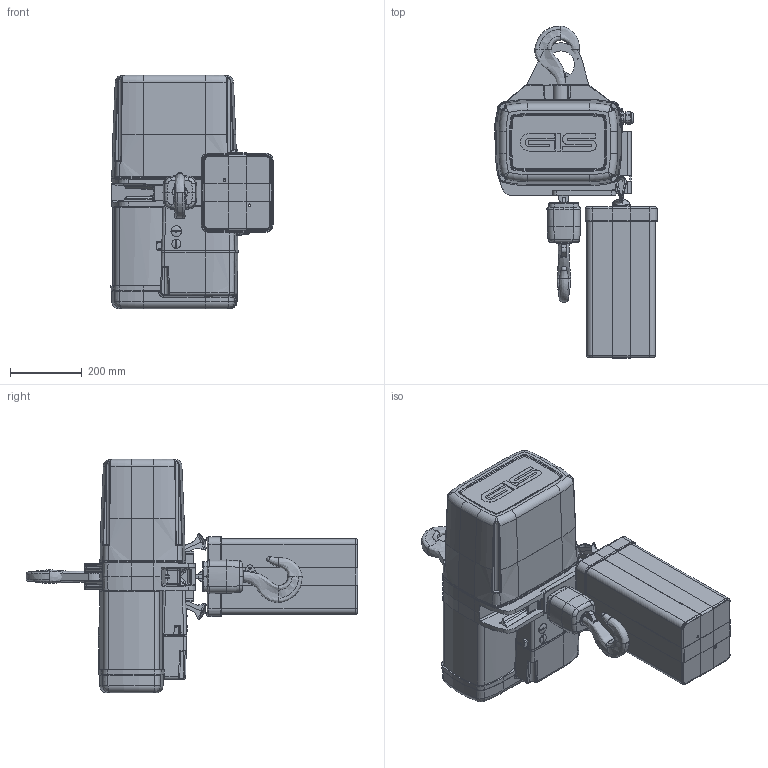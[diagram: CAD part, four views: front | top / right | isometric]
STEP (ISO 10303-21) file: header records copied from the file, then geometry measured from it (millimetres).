
FILE_DESCRIPTION(/* description */ (''),/* implementation_level */ '2;1');
FILE_NAME(/* name */ 'C:\Users\gissfl\Desktop\zwischenablage\9520.9200.L.stp',/* time_stamp */ '2020-08-10T09:50:58+02:00',/* author */ ('gissfl'),/* organization */ (''),/* preprocessor_version */ 'ST-DEVELOPER v17.2',/* originating_system */ 'Autodesk Inventor 2019',/* authorisation */ '');
FILE_SCHEMA (('AUTOMOTIVE_DESIGN { 1 0 10303 214 3 1 1 }'));
Products named in the file (1): 9520.9200.L
Bounding box: 451.21 x 923.65 x 649.5 mm (x, y, z)
Volume: 50676729 mm3; surface area: 2173364.8 mm2
Topology: 5 solids, 15 shells, 1844 faces, 4735 edges, 2841 vertices
Faces by surface type: bspline 526, cylinder 522, plane 489, torus 185, cone 103, sphere 19
Full cylindrical faces by diameter (mm): 3.3 x2, 6.2 x1, 7 x2, 7.5 x3, 20.5 x2, 25 x2, 30 x2, 75 x1, 156 x1
Entity records: 86401 total; most frequent: CARTESIAN_POINT 42246, ORIENTED_EDGE 9304, DIRECTION 8429, EDGE_CURVE 4652, AXIS2_PLACEMENT_3D 3335, VERTEX_POINT 2840, EDGE_LOOP 1876, FACE_OUTER_BOUND 1843
